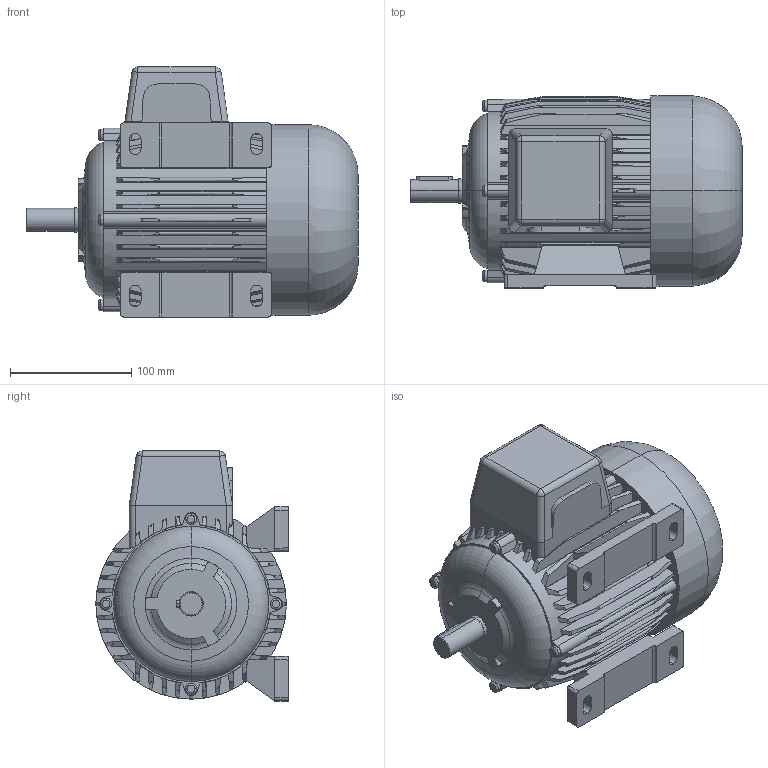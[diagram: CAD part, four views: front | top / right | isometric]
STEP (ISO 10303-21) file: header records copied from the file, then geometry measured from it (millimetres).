
FILE_DESCRIPTION(('OneSpaceDesigner STEP Export'),'2;1');
FILE_NAME('OD8_B3.stp','2008-04-24T13:24:48',(''),(''),'OneSpace Designer STEP processor (Jan. 2003) for AP214(CD)(Solid Model)','OneSpace Designer 12.01D 09-Jul-2004 (C) CoCreate Software GmbH','');
FILE_SCHEMA(('AUTOMOTIVE_DESIGN_CC2 {1 2 10303 214 -1 1 5 1}'));
Length unit declared in the file: millimetre
Products named in the file (2): OD8_B3
Assembly tree (1 placements, depth 2):
  OD8_B3
    OD8_B3
Bounding box: 273.5 x 158.5 x 206 mm (x, y, z)
Volume: 4107370.2 mm3; surface area: 252178.8 mm2
Topology: 1 solids, 1 shells, 528 faces, 1525 edges, 1006 vertices
Faces by surface type: plane 191, cylinder 154, cone 131, torus 46, sphere 4, extrusion 2
Entity records: 40587 total; most frequent: CARTESIAN_POINT 27887, ORIENTED_EDGE 3042, DIRECTION 1986, EDGE_CURVE 1521, VERTEX_POINT 1006, AXIS2_PLACEMENT_3D 701, VECTOR 584, LINE 582
